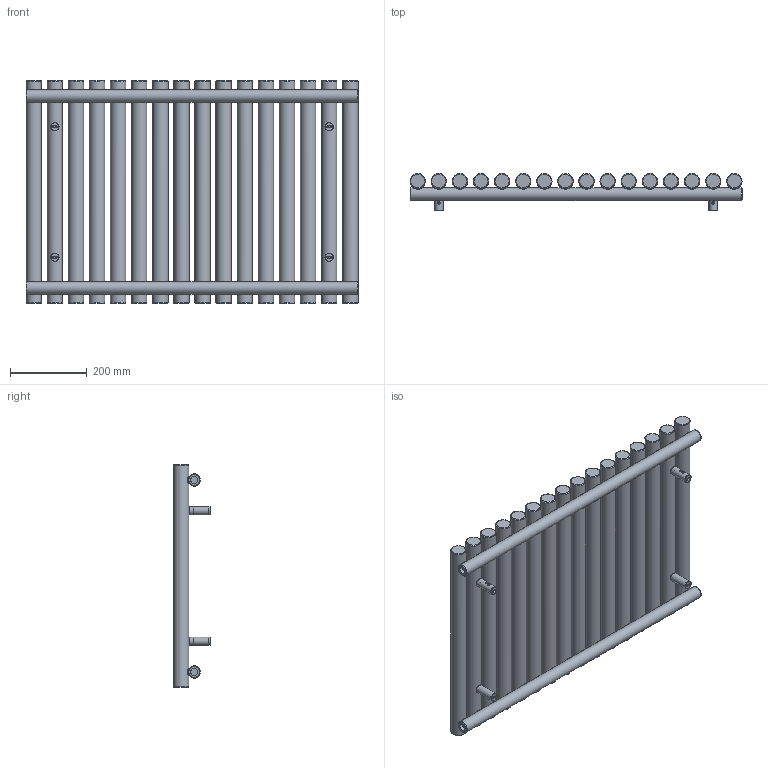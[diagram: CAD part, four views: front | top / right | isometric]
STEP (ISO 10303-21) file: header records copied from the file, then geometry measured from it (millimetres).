
FILE_DESCRIPTION(/* description */ (''),/* implementation_level */ '2;1');
FILE_NAME(/* name */ 'Z:\R\G\P\RGP116 - Grzejniki Geyser\Work\Inventor\Circolo (Rolo V, Rolo H)\ROLO-ROOM\Marketing\Zaokrąglone\WGROR058086-LP-CK-(Z).stp',/* time_stamp */ '2024-01-19T14:03:53+01:00',/* author */ ('NowAd'),/* organization */ (''),/* preprocessor_version */ 'ST-DEVELOPER v17.2',/* originating_system */ 'Autodesk Inventor 2019',/* authorisation */ '');
FILE_SCHEMA (('AUTOMOTIVE_DESIGN { 1 0 10303 214 3 1 1 }'));
Length unit declared in the file: millimetre
Products named in the file (3): WGROR058086-LP-CK-(Z); PGROR058086-LP-CK-(Z); CK-V-fi40 marketing
Assembly tree (5 placements, depth 2):
  WGROR058086-LP-CK-(Z)
    PGROR058086-LP-CK-(Z)
    CK-V-fi40 marketing  x4
Bounding box: 865 x 96.5 x 580 mm (x, y, z)
Volume: 13083238.6 mm3; surface area: 1394180.4 mm2
Topology: 5 solids, 5 shells, 398 faces, 974 edges, 652 vertices
Faces by surface type: plane 156, cylinder 86, torus 64, cone 60, bspline 32
Full cylindrical faces by diameter (mm): 4.134 x4, 4.48 x4, 6.4 x4, 10 x4, 12 x4, 15.834 x4, 16 x4, 18.631 x4, 22 x4, 32 x2, 40 x16
Entity records: 12273 total; most frequent: CARTESIAN_POINT 7246, DIRECTION 1043, ORIENTED_EDGE 986, EDGE_CURVE 493, AXIS2_PLACEMENT_3D 478, VERTEX_POINT 334, EDGE_LOOP 299, CIRCLE 279
